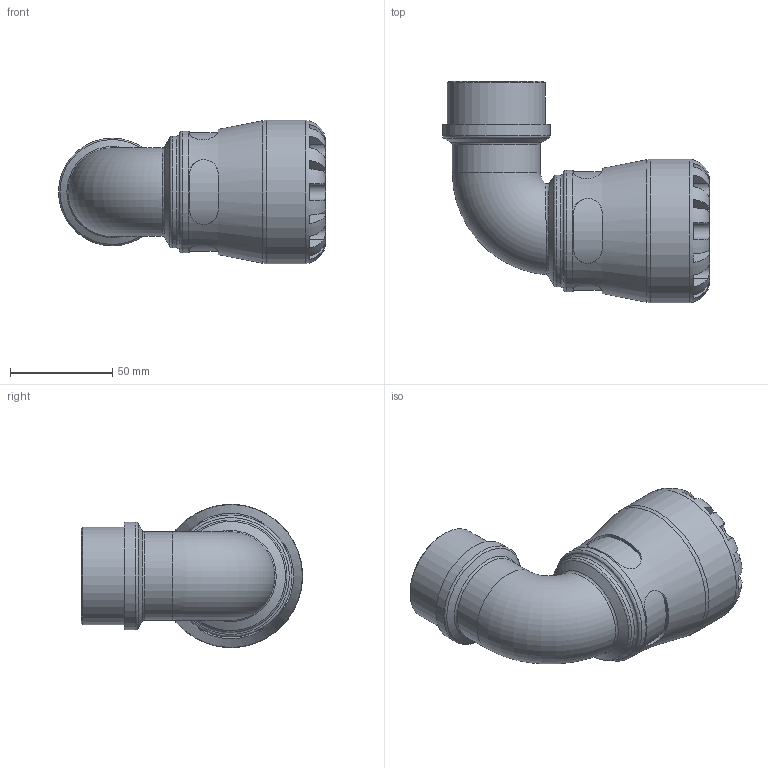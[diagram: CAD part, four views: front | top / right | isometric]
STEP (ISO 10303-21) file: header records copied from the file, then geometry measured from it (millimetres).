
FILE_DESCRIPTION(/* description */ ('PLASSON 90° ELBOW WITH MALE INTEGRAL BRASS 40X1.1/2" SERIES 1'),/* implementation_level */ '2;1');
FILE_NAME(/* name */ 'C:\Dropbox\KIMPROJECTS-Inventor\99-16-3568-Processing\S1\1077\107700040015_197700040015.ipt.stp',/* time_stamp */ '2018-05-13T11:03:39+03:00',/* author */ ('KIM'),/* organization */ (''),/* preprocessor_version */ 'ST-DEVELOPER v15.6',/* originating_system */ 'Autodesk Inventor 2015',/* authorisation */ '');
FILE_SCHEMA (('AUTOMOTIVE_DESIGN { 1 0 10303 214 3 1 1 }'));
Length unit declared in the file: millimetre
Products named in the file (1): 107700040015_197700040015
Bounding box: 130.29 x 108 x 70 mm (x, y, z)
Volume: 214001.4 mm3; surface area: 53450.5 mm2
Topology: 1 solids, 1 shells, 112 faces, 275 edges, 170 vertices
Faces by surface type: plane 60, cylinder 37, torus 9, cone 3, bspline 3
Full cylindrical faces by diameter (mm): 33.462 x2, 40 x1, 43.023 x1, 47.803 x1, 52.583 x1, 54.6 x1, 59.5 x1, 70 x1
Entity records: 4395 total; most frequent: CARTESIAN_POINT 1805, DIRECTION 495, ORIENTED_EDGE 492, EDGE_CURVE 246, AXIS2_PLACEMENT_3D 207, VERTEX_POINT 163, EDGE_LOOP 141, STYLED_ITEM 113
